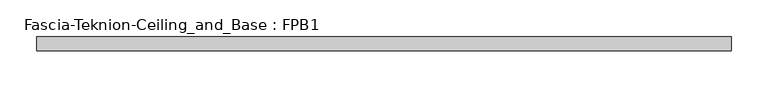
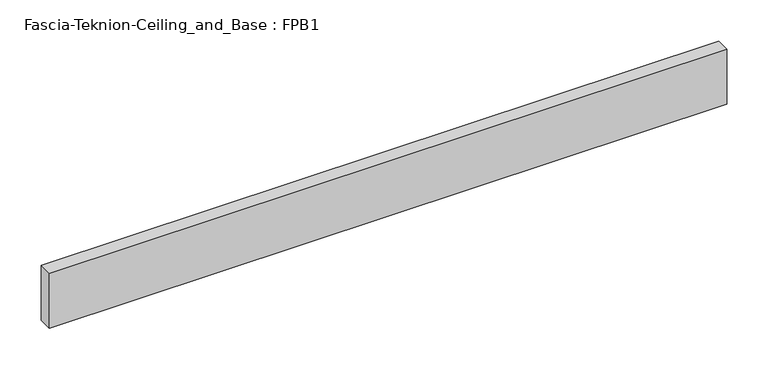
"""IFC4 building model written with IfcOpenShell, lengths in millimetres: proxy geometry, Fascia-Teknion-Ceiling_and_Base : FPB1."""

from ifc_helpers import new_model, si_unit, origin, origin_with_axes, place, context, project, spatial, polyline, outline, extrude, source, transform, mapped, element, save


def fascia_teknion_ceiling_and_base_fpb1_df58155e(model_context):
    return source(origin(), model_context, "Body", "SweptSolid", [
        extrude(outline(polyline([(472.4356344, 0.0), (-472.4356344, 0.0), (-472.4356344, 19.05), (472.4356344, 19.05), (472.4356344, 0.0)])), origin_with_axes(), (0.0, 0.0, 1.0), 81.28),
    ])


if __name__ == "__main__":
    model = new_model("IFC4")
    model_context = context("Model", 3, world=origin())
    ifc_project = project(units=[si_unit("LENGTHUNIT", "METRE", prefix="MILLI")], contexts=[model_context])
    site = spatial("IfcSite", under=ifc_project)
    building = spatial("IfcBuilding", under=site)
    placement = place(None, origin())
    fascia_teknion_ceiling_and_base_fpb1_shape = fascia_teknion_ceiling_and_base_fpb1_df58155e(model_context)
    element("IfcBuildingElementProxy", 1, Name="Fascia-Teknion-Ceiling_and_Base : FPB1", ObjectType="Fascia-Teknion-Ceiling_and_Base : FPB1", at=placement, inside=building, context=model_context, shape_type="MappedRepresentation", body=[
        mapped(fascia_teknion_ceiling_and_base_fpb1_shape, transform((0.0, 0.0, 0.0), x_axis=(1.0, 0.0, 0.0), y_axis=(0.0, 1.0, 0.0), z_axis=(0.0, 0.0, 1.0))),
    ])
    save(model, "model.ifc")
